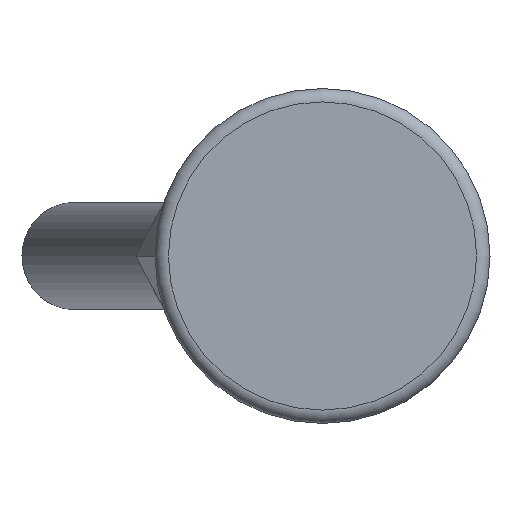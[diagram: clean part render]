
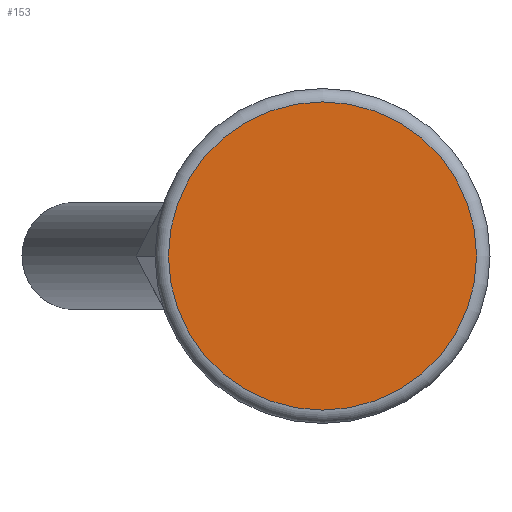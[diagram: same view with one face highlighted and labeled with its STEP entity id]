
A CAD part, front view. The second image highlights one B-rep face of the part: STEP entity #153.
In plain terms, the highlighted planar face has unit normal (0, -1, 0).
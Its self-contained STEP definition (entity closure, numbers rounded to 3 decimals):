
#153 = ADVANCED_FACE( '', ( #307 ), #308, .F. );
#307 = FACE_OUTER_BOUND( '', #489, .T. );
#308 = PLANE( '', #490 );
#489 = EDGE_LOOP( '', ( #694 ) );
#490 = AXIS2_PLACEMENT_3D( '', #695, #696, #697 );
#694 = ORIENTED_EDGE( '', *, *, #1045, .T. );
#695 = CARTESIAN_POINT( '', ( 11.5, 0., 0. ) );
#696 = DIRECTION( '', ( 0., 1., 0. ) );
#697 = DIRECTION( '', ( 0., 0., 1. ) );
#1045 = EDGE_CURVE( '', #1211, #1211, #1212, .T. );
#1211 = VERTEX_POINT( '', #1470 );
#1212 = CIRCLE( '', #1471, 11.5 );
#1470 = CARTESIAN_POINT( '', ( 0., 0., -11.5 ) );
#1471 = AXIS2_PLACEMENT_3D( '', #1847, #1848, #1849 );
#1847 = CARTESIAN_POINT( '', ( 0., 0., 0. ) );
#1848 = DIRECTION( '', ( 0., -1., 0. ) );
#1849 = DIRECTION( '', ( 0., 0., -1. ) );
